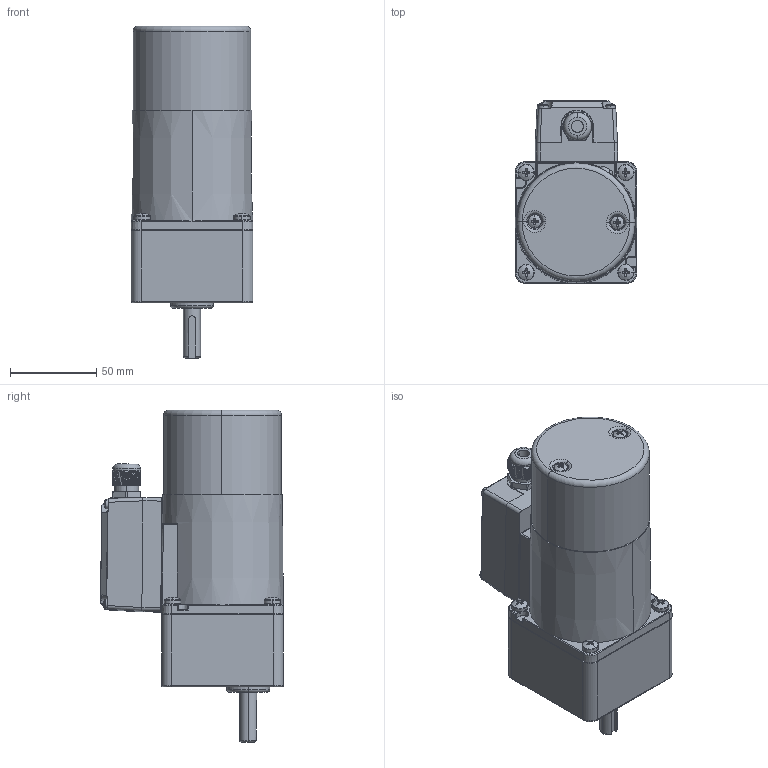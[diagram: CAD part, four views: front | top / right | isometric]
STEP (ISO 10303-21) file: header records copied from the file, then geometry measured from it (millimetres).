
FILE_DESCRIPTION (( 'STEP AP203' ), '1' );
FILE_NAME ('3RK15GN-CMT(3GN3K-200K).STEP', '2023-08-08T03:21:48', ( 'Windows User' ), ( 'P R C' ), 'SwSTEP 2.0', 'SolidWorks 2019', '' );
FILE_SCHEMA (( 'CONFIG_CONTROL_DESIGN' ));
Length unit declared in the file: millimetre
Products named in the file (24): 葩璃 (2) ^_葩璃 (3) __3RK15GN-CMT___3RK15GN-CMT(3GN3K-200K)(2)_3RK15GN-CMT(3GN3K-200K); ^葩璃 (3) __3RK15GN-CMT___3RK15GN-CMT(3GN3K-200K)(2)_3RK15GN-CMT(3GN3K-200K); ^_葩璃 (3) __3RK15GN-CMT___3RK15GN-CMT(3GN3K-200K)(2)_3RK15GN-CMT(3GN3K-200K); ^____3RK15GN-CMT___3RK15GN-CMT(3GN3K-200K)(2)_3RK15GN-CMT(3GN3K-200K); 葩璃 (2) ^_3RK15GN-CMT___3RK15GN-CMT(3GN3K-200K)(2)_3RK15GN-CMT(3GN3K-200K); ^_3RK15GN-CMT(3GN3K-200K)(2)_3RK15GN-CMT(3GN3K-200K); 葩璃 (3) ^_葩璃 (3) __3RK15GN-CMT___3RK15GN-CMT(3GN3K-200K)(2)_3RK15GN-CMT(3GN3K-200K); 3RK15GN-CMT(3GN3K-200K)(2)^3RK15GN-CMT(3GN3K-200K); ^_葩璃 (2) __3RK15GN-CMT___3RK15GN-CMT(3GN3K-200K)(2)_3RK15GN-CMT(3GN3K-200K); ^葩璃 (2) __3RK15GN-CMT___3RK15GN-CMT(3GN3K-200K)(2)_3RK15GN-CMT(3GN3K-200K); ^___3RK15GN-CMT___3RK15GN-CMT(3GN3K-200K)(2)_3RK15GN-CMT(3GN3K-200K); 葩璃 (4) ^_葩璃 (3) __3RK15GN-CMT___3RK15GN-CMT(3GN3K-200K)(2)_3RK15GN-CMT(3GN3K-200K); ^_____3RK15GN-CMT___3RK15GN-CMT(3GN3K-200K)(2)_3RK15GN-CMT(3GN3K-200K); 3RK15GN-CMT^__3RK15GN-CMT(3GN3K-200K)(2)_3RK15GN-CMT(3GN3K-200K); 葩璃 (3) ^_葩璃 (2) __3RK15GN-CMT___3RK15GN-CMT(3GN3K-200K)(2)_3RK15GN-CMT(3GN3K-200K); 葩璃 (3) ^_3RK15GN-CMT___3RK15GN-CMT(3GN3K-200K)(2)_3RK15GN-CMT(3GN3K-200K); ^__3RK15GN-CMT___3RK15GN-CMT(3GN3K-200K)(2)_3RK15GN-CMT(3GN3K-200K); ^3RK15GN-CMT(3GN3K-200K)(2)_3RK15GN-CMT(3GN3K-200K); ^_3RK15GN-CMT___3RK15GN-CMT(3GN3K-200K)(2)_3RK15GN-CMT(3GN3K-200K); 葩璃 (2) ^_葩璃 (2) __3RK15GN-CMT___3RK15GN-CMT(3GN3K-200K)(2)_3RK15GN-CMT(3GN3K-200K); 3RK15GN-CMT(3GN3K-200K); 3GN3k-200K^3RK15GN-CMT(3GN3K-200K)(2)_3RK15GN-CMT(3GN3K-200K); ^3RK15GN-CMT___3RK15GN-CMT(3GN3K-200K)(2)_3RK15GN-CMT(3GN3K-200K)
Assembly tree (29 placements, depth 11):
  3RK15GN-CMT(3GN3K-200K)
    3RK15GN-CMT(3GN3K-200K)(2)^3RK15GN-CMT(3GN3K-200K)
      ^3RK15GN-CMT(3GN3K-200K)(2)_3RK15GN-CMT(3GN3K-200K)
        ^_3RK15GN-CMT(3GN3K-200K)(2)_3RK15GN-CMT(3GN3K-200K)
          3RK15GN-CMT^__3RK15GN-CMT(3GN3K-200K)(2)_3RK15GN-CMT(3GN3K-200K)
            ^3RK15GN-CMT___3RK15GN-CMT(3GN3K-200K)(2)_3RK15GN-CMT(3GN3K-200K)
              ^_3RK15GN-CMT___3RK15GN-CMT(3GN3K-200K)(2)_3RK15GN-CMT(3GN3K-200K)
                ^__3RK15GN-CMT___3RK15GN-CMT(3GN3K-200K)(2)_3RK15GN-CMT(3GN3K-200K)
                  ^___3RK15GN-CMT___3RK15GN-CMT(3GN3K-200K)(2)_3RK15GN-CMT(3GN3K-200K)
              葩璃 (2) ^_3RK15GN-CMT___3RK15GN-CMT(3GN3K-200K)(2)_3RK15GN-CMT(3GN3K-200K)
                ^葩璃 (2) __3RK15GN-CMT___3RK15GN-CMT(3GN3K-200K)(2)_3RK15GN-CMT(3GN3K-200K)
                  ^_葩璃 (2) __3RK15GN-CMT___3RK15GN-CMT(3GN3K-200K)(2)_3RK15GN-CMT(3GN3K-200K)
                  葩璃 (2) ^_葩璃 (2) __3RK15GN-CMT___3RK15GN-CMT(3GN3K-200K)(2)_3RK15GN-CMT(3GN3K-200K)
                  葩璃 (3) ^_葩璃 (2) __3RK15GN-CMT___3RK15GN-CMT(3GN3K-200K)(2)_3RK15GN-CMT(3GN3K-200K)  x4
              葩璃 (3) ^_3RK15GN-CMT___3RK15GN-CMT(3GN3K-200K)(2)_3RK15GN-CMT(3GN3K-200K)
                ^葩璃 (3) __3RK15GN-CMT___3RK15GN-CMT(3GN3K-200K)(2)_3RK15GN-CMT(3GN3K-200K)
                  ^_葩璃 (3) __3RK15GN-CMT___3RK15GN-CMT(3GN3K-200K)(2)_3RK15GN-CMT(3GN3K-200K)
                  葩璃 (2) ^_葩璃 (3) __3RK15GN-CMT___3RK15GN-CMT(3GN3K-200K)(2)_3RK15GN-CMT(3GN3K-200K)
                  葩璃 (3) ^_葩璃 (3) __3RK15GN-CMT___3RK15GN-CMT(3GN3K-200K)(2)_3RK15GN-CMT(3GN3K-200K)
                  葩璃 (4) ^_葩璃 (3) __3RK15GN-CMT___3RK15GN-CMT(3GN3K-200K)(2)_3RK15GN-CMT(3GN3K-200K)
        ^_3RK15GN-CMT(3GN3K-200K)(2)_3RK15GN-CMT(3GN3K-200K)  x4
      3GN3k-200K^3RK15GN-CMT(3GN3K-200K)(2)_3RK15GN-CMT(3GN3K-200K)
Bounding box: 70.8 x 106.24 x 193.02 mm (x, y, z)
Volume: 675227.6 mm3; surface area: 111757.4 mm2
Topology: 16 solids, 16 shells, 2139 faces, 5531 edges, 3427 vertices
Faces by surface type: cone 940, cylinder 693, plane 329, torus 124, sphere 30, bspline 23
Entity records: 46792 total; most frequent: CARTESIAN_POINT 13779, DIRECTION 6846, ORIENTED_EDGE 6240, EDGE_CURVE 3120, AXIS2_PLACEMENT_3D 2864, VERTEX_POINT 1959, CIRCLE 1613, EDGE_LOOP 1301
